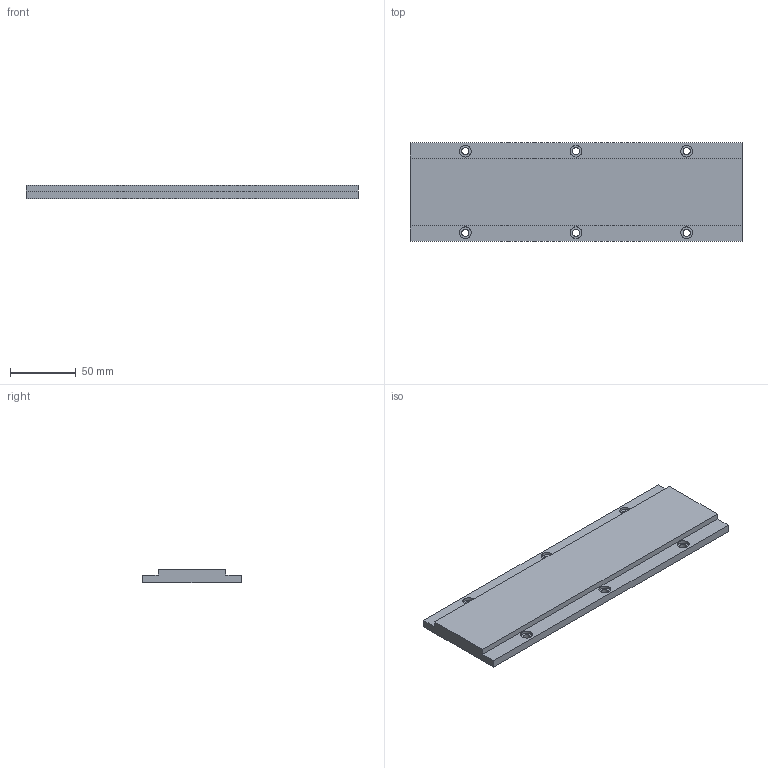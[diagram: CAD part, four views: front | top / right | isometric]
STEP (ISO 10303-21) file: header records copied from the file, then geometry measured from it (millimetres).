
FILE_DESCRIPTION (( 'STEP AP214' ), '1' );
FILE_NAME ('TLS-75-L252¶¨×Ó.STEP', '2021-04-28T08:11:00', ( '' ), ( '' ), 'SwSTEP 2.0', 'SolidWorks 2016', '' );
FILE_SCHEMA (( 'AUTOMOTIVE_DESIGN' ));
Length unit declared in the file: millimetre
Products named in the file (1): TLS-75-L252隅赽
Bounding box: 252 x 75 x 10.5 mm (x, y, z)
Volume: 170467.4 mm3; surface area: 44924.4 mm2
Topology: 1 solids, 1 shells, 40 faces, 96 edges, 64 vertices
Faces by surface type: cylinder 24, plane 16
Entity records: 1246 total; most frequent: DIRECTION 226, CARTESIAN_POINT 201, ORIENTED_EDGE 192, EDGE_CURVE 96, AXIS2_PLACEMENT_3D 89, VERTEX_POINT 64, EDGE_LOOP 58, VECTOR 48
